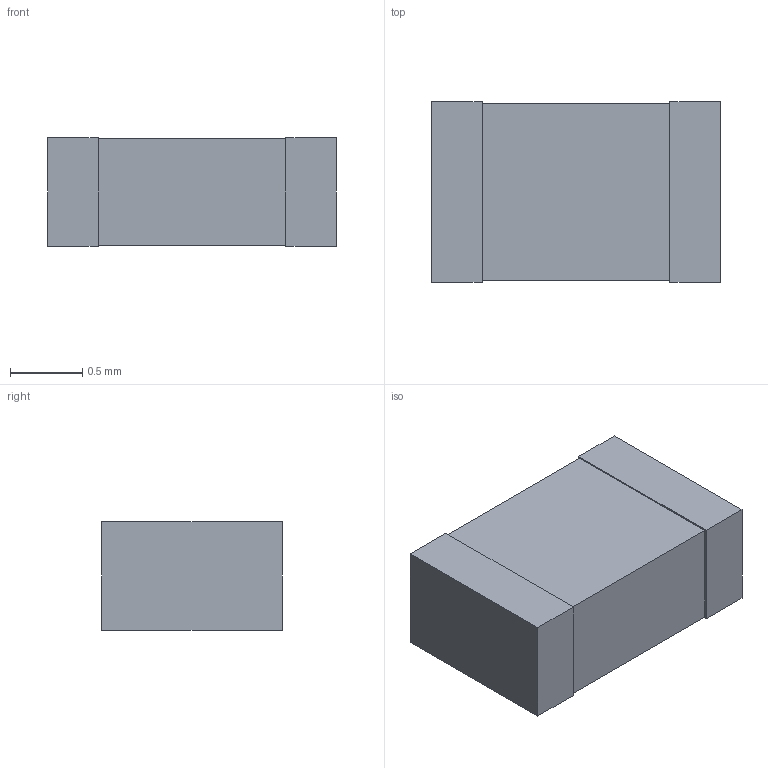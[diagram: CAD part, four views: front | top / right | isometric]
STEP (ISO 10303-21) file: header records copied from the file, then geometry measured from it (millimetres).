
FILE_DESCRIPTION(('FreeCAD Model'),'2;1');
FILE_NAME('/var/www/3D/0T/393728.1.1.stp','2018-01-09T19:55:22',( 'Author'),(''),'Open CASCADE STEP processor 6.8','FreeCAD','Unknown' );
FILE_SCHEMA(('AUTOMOTIVE_DESIGN_CC2 { 1 2 10303 214 -1 1 5 4 }'));
Length unit declared in the file: millimetre
Products named in the file (4): ASSEMBLY; term1; term2; body
Assembly tree (3 placements, depth 2):
  ASSEMBLY
    term1
    term2
    body
Bounding box: 2 x 1.25 x 0.75 mm (x, y, z)
Volume: 1.8 mm3; surface area: 13.4 mm2
Topology: 3 solids, 3 shells, 18 faces, 36 edges, 24 vertices
Faces by surface type: plane 18
Entity records: 1020 total; most frequent: CARTESIAN_POINT 154, DIRECTION 152, LINE 108, VECTOR 108, ORIENTED_EDGE 72, PCURVE 72, DEFINITIONAL_REPRESENTATION 72, EDGE_CURVE 36
